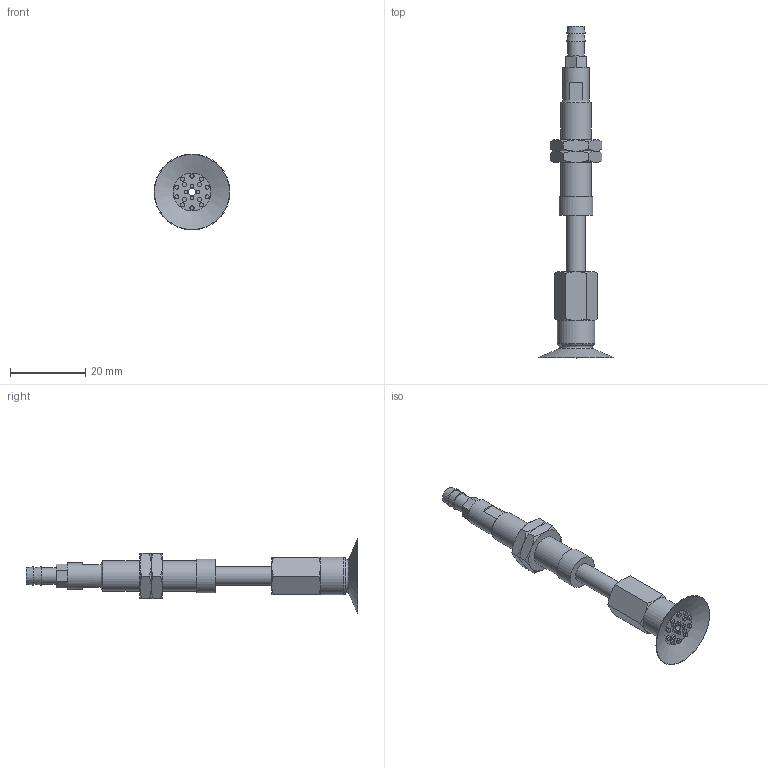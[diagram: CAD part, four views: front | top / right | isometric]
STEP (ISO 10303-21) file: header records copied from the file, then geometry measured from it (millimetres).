
FILE_DESCRIPTION(('STEP AP203'),'1');
FILE_NAME('-T.stp','2025-08-26T08:58:17',(' '),(' '),'Spatial InterOp 3D',' ',' ');
FILE_SCHEMA(('CONFIG_CONTROL_DESIGN'));
Length unit declared in the file: millimetre
Products named in the file (7): BNABPATS-20A-15-※-T; ADAPTER; NAPATS-10A-15--M; NAPATS-20A-15--F; Nut-10A-S; BPAG-20A-※_3D; T
Assembly tree (7 placements, depth 2):
  BNABPATS-20A-15-※-T
    ADAPTER
    NAPATS-10A-15--M
    NAPATS-20A-15--F
    Nut-10A-S  x2
    BPAG-20A-※_3D
    T
Bounding box: 20.19 x 88.5 x 20.19 mm (x, y, z)
Volume: 4433.3 mm3; surface area: 5663.8 mm2
Topology: 7 solids, 7 shells, 167 faces, 324 edges, 200 vertices
Faces by surface type: plane 71, cone 49, cylinder 37, torus 10
Full cylindrical faces by diameter (mm): 0.9 x4, 1.1 x14, 2 x3, 3 x1, 4 x2, 4.134 x1, 4.3 x1, 5 x3, 6 x2, 7 x1, 7.188 x2, 8 x1, 9 x1, 10 x1
Entity records: 3846 total; most frequent: CARTESIAN_POINT 814, DIRECTION 588, ORIENTED_EDGE 420, AXIS2_PLACEMENT_3D 274, EDGE_LOOP 242, EDGE_CURVE 210, FACE_OUTER_BOUND 190, VERTEX_POINT 164
